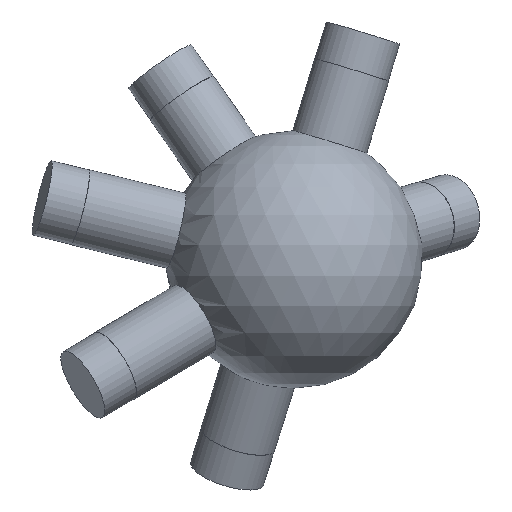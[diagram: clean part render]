
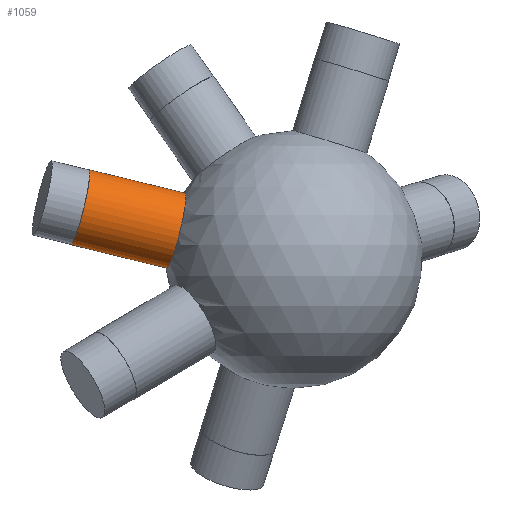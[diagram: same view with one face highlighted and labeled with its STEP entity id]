
A CAD part, left-side view. The second image highlights one B-rep face of the part: STEP entity #1059.
In plain terms, the highlighted cylindrical face has radius 6 mm (diameter 12 mm), a full revolution.
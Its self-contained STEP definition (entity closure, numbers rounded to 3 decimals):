
#33 = SPHERICAL_SURFACE('',#34,20.);
#34 = AXIS2_PLACEMENT_3D('',#35,#36,#37);
#35 = CARTESIAN_POINT('',(0.,0.,0.));
#36 = DIRECTION('',(0.,0.,1.));
#37 = DIRECTION('',(1.,0.,-0.));
#646 = EDGE_CURVE('',#647,#647,#649,.T.);
#647 = VERTEX_POINT('',#648);
#648 = CARTESIAN_POINT('',(-2.189,16.989,
    10.324));
#649 = SURFACE_CURVE('',#650,(#655,#717),.PCURVE_S1.);
#650 = CIRCLE('',#651,6.);
#651 = AXIS2_PLACEMENT_3D('',#652,#653,#654);
#652 = CARTESIAN_POINT('',(-2.189,18.412,4.495
    ));
#653 = DIRECTION('',(-0.115,0.965,0.236));
#654 = DIRECTION('',(0.,-0.237,0.971)
  );
#655 = PCURVE('',#33,#656);
#656 = DEFINITIONAL_REPRESENTATION('',(#657),#716);
#657 = B_SPLINE_CURVE_WITH_KNOTS('',8,(#658,#659,#660,#661,#662,#663,
    #664,#665,#666,#667,#668,#669,#670,#671,#672,#673,#674,#675,#676,
    #677,#678,#679,#680,#681,#682,#683,#684,#685,#686,#687,#688,#689,
    #690,#691,#692,#693,#694,#695,#696,#697,#698,#699,#700,#701,#702,
    #703,#704,#705,#706,#707,#708,#709,#710,#711,#712,#713,#714,#715),
  .UNSPECIFIED.,.F.,.F.,(9,7,7,7,7,7,7,7,9),(0.,0.785,
    1.473,2.675,3.577,4.254,
    5.268,5.776,6.283),.UNSPECIFIED.);
#658 = CARTESIAN_POINT('',(1.699,0.542));
#659 = CARTESIAN_POINT('',(1.665,0.543));
#660 = CARTESIAN_POINT('',(1.63,0.541));
#661 = CARTESIAN_POINT('',(1.596,0.534));
#662 = CARTESIAN_POINT('',(1.564,0.524));
#663 = CARTESIAN_POINT('',(1.533,0.51));
#664 = CARTESIAN_POINT('',(1.505,0.493));
#665 = CARTESIAN_POINT('',(1.48,0.474));
#666 = CARTESIAN_POINT('',(1.439,0.433));
#667 = CARTESIAN_POINT('',(1.422,0.412));
#668 = CARTESIAN_POINT('',(1.408,0.389));
#669 = CARTESIAN_POINT('',(1.396,0.366));
#670 = CARTESIAN_POINT('',(1.387,0.341));
#671 = CARTESIAN_POINT('',(1.381,0.316));
#672 = CARTESIAN_POINT('',(1.377,0.29));
#673 = CARTESIAN_POINT('',(1.373,0.219));
#674 = CARTESIAN_POINT('',(1.379,0.174));
#675 = CARTESIAN_POINT('',(1.392,0.13));
#676 = CARTESIAN_POINT('',(1.412,0.088));
#677 = CARTESIAN_POINT('',(1.438,0.05));
#678 = CARTESIAN_POINT('',(1.47,0.016));
#679 = CARTESIAN_POINT('',(1.506,-0.011));
#680 = CARTESIAN_POINT('',(1.576,-0.048));
#681 = CARTESIAN_POINT('',(1.608,-0.059));
#682 = CARTESIAN_POINT('',(1.642,-0.067));
#683 = CARTESIAN_POINT('',(1.676,-0.071));
#684 = CARTESIAN_POINT('',(1.71,-0.07));
#685 = CARTESIAN_POINT('',(1.744,-0.065));
#686 = CARTESIAN_POINT('',(1.777,-0.056));
#687 = CARTESIAN_POINT('',(1.832,-0.033));
#688 = CARTESIAN_POINT('',(1.854,-0.021));
#689 = CARTESIAN_POINT('',(1.876,-0.007));
#690 = CARTESIAN_POINT('',(1.896,0.009));
#691 = CARTESIAN_POINT('',(1.914,0.027));
#692 = CARTESIAN_POINT('',(1.931,0.046));
#693 = CARTESIAN_POINT('',(1.946,0.067));
#694 = CARTESIAN_POINT('',(1.978,0.121));
#695 = CARTESIAN_POINT('',(1.993,0.157));
#696 = CARTESIAN_POINT('',(2.003,0.194));
#697 = CARTESIAN_POINT('',(2.008,0.233));
#698 = CARTESIAN_POINT('',(2.007,0.271));
#699 = CARTESIAN_POINT('',(2.001,0.31));
#700 = CARTESIAN_POINT('',(1.99,0.346));
#701 = CARTESIAN_POINT('',(1.963,0.398));
#702 = CARTESIAN_POINT('',(1.953,0.415));
#703 = CARTESIAN_POINT('',(1.942,0.431));
#704 = CARTESIAN_POINT('',(1.929,0.446));
#705 = CARTESIAN_POINT('',(1.914,0.46));
#706 = CARTESIAN_POINT('',(1.899,0.473));
#707 = CARTESIAN_POINT('',(1.882,0.485));
#708 = CARTESIAN_POINT('',(1.846,0.506));
#709 = CARTESIAN_POINT('',(1.827,0.516));
#710 = CARTESIAN_POINT('',(1.807,0.524));
#711 = CARTESIAN_POINT('',(1.787,0.531));
#712 = CARTESIAN_POINT('',(1.765,0.536));
#713 = CARTESIAN_POINT('',(1.743,0.54));
#714 = CARTESIAN_POINT('',(1.721,0.542));
#715 = CARTESIAN_POINT('',(1.699,0.542));
#716 = ( GEOMETRIC_REPRESENTATION_CONTEXT(2) 
PARAMETRIC_REPRESENTATION_CONTEXT() REPRESENTATION_CONTEXT('2D SPACE',''
  ) );
#717 = PCURVE('',#718,#723);
#718 = CYLINDRICAL_SURFACE('',#719,6.);
#719 = AXIS2_PLACEMENT_3D('',#720,#721,#722);
#720 = CARTESIAN_POINT('',(0.,0.,0.));
#721 = DIRECTION('',(-0.115,0.965,0.236));
#722 = DIRECTION('',(0.,-0.237,0.971)
  );
#723 = DEFINITIONAL_REPRESENTATION('',(#724),#728);
#724 = LINE('',#725,#726);
#725 = CARTESIAN_POINT('',(0.,19.079));
#726 = VECTOR('',#727,1.);
#727 = DIRECTION('',(1.,0.));
#728 = ( GEOMETRIC_REPRESENTATION_CONTEXT(2) 
PARAMETRIC_REPRESENTATION_CONTEXT() REPRESENTATION_CONTEXT('2D SPACE',''
  ) );
#1059 = ADVANCED_FACE('',(#1060),#718,.T.);
#1060 = FACE_BOUND('',#1061,.T.);
#1061 = EDGE_LOOP('',(#1062,#1085,#1112,#1113));
#1062 = ORIENTED_EDGE('',*,*,#1063,.T.);
#1063 = EDGE_CURVE('',#647,#1064,#1066,.T.);
#1064 = VERTEX_POINT('',#1065);
#1065 = CARTESIAN_POINT('',(-3.966,31.935,
    13.973));
#1066 = SEAM_CURVE('',#1067,(#1071,#1078),.PCURVE_S1.);
#1067 = LINE('',#1068,#1069);
#1068 = CARTESIAN_POINT('',(0.,-1.423,
    5.829));
#1069 = VECTOR('',#1070,1.);
#1070 = DIRECTION('',(-0.115,0.965,0.236));
#1071 = PCURVE('',#718,#1072);
#1072 = DEFINITIONAL_REPRESENTATION('',(#1073),#1077);
#1073 = LINE('',#1074,#1075);
#1074 = CARTESIAN_POINT('',(6.283,-0.));
#1075 = VECTOR('',#1076,1.);
#1076 = DIRECTION('',(0.,1.));
#1077 = ( GEOMETRIC_REPRESENTATION_CONTEXT(2) 
PARAMETRIC_REPRESENTATION_CONTEXT() REPRESENTATION_CONTEXT('2D SPACE',''
  ) );
#1078 = PCURVE('',#718,#1079);
#1079 = DEFINITIONAL_REPRESENTATION('',(#1080),#1084);
#1080 = LINE('',#1081,#1082);
#1081 = CARTESIAN_POINT('',(0.,-0.));
#1082 = VECTOR('',#1083,1.);
#1083 = DIRECTION('',(0.,1.));
#1084 = ( GEOMETRIC_REPRESENTATION_CONTEXT(2) 
PARAMETRIC_REPRESENTATION_CONTEXT() REPRESENTATION_CONTEXT('2D SPACE',''
  ) );
#1085 = ORIENTED_EDGE('',*,*,#1086,.F.);
#1086 = EDGE_CURVE('',#1064,#1064,#1087,.T.);
#1087 = SURFACE_CURVE('',#1088,(#1093,#1100),.PCURVE_S1.);
#1088 = CIRCLE('',#1089,6.);
#1089 = AXIS2_PLACEMENT_3D('',#1090,#1091,#1092);
#1090 = CARTESIAN_POINT('',(-3.966,33.358,
    8.144));
#1091 = DIRECTION('',(-0.115,0.965,0.236));
#1092 = DIRECTION('',(0.,-0.237,0.971
    ));
#1093 = PCURVE('',#718,#1094);
#1094 = DEFINITIONAL_REPRESENTATION('',(#1095),#1099);
#1095 = LINE('',#1096,#1097);
#1096 = CARTESIAN_POINT('',(0.,34.566));
#1097 = VECTOR('',#1098,1.);
#1098 = DIRECTION('',(1.,0.));
#1099 = ( GEOMETRIC_REPRESENTATION_CONTEXT(2) 
PARAMETRIC_REPRESENTATION_CONTEXT() REPRESENTATION_CONTEXT('2D SPACE',''
  ) );
#1100 = PCURVE('',#1101,#1106);
#1101 = PLANE('',#1102);
#1102 = AXIS2_PLACEMENT_3D('',#1103,#1104,#1105);
#1103 = CARTESIAN_POINT('',(-3.966,33.358,
    8.144));
#1104 = DIRECTION('',(-0.115,0.965,0.236));
#1105 = DIRECTION('',(0.,-0.237,0.971
    ));
#1106 = DEFINITIONAL_REPRESENTATION('',(#1107),#1111);
#1107 = CIRCLE('',#1108,6.);
#1108 = AXIS2_PLACEMENT_2D('',#1109,#1110);
#1109 = CARTESIAN_POINT('',(0.,0.));
#1110 = DIRECTION('',(1.,0.));
#1111 = ( GEOMETRIC_REPRESENTATION_CONTEXT(2) 
PARAMETRIC_REPRESENTATION_CONTEXT() REPRESENTATION_CONTEXT('2D SPACE',''
  ) );
#1112 = ORIENTED_EDGE('',*,*,#1063,.F.);
#1113 = ORIENTED_EDGE('',*,*,#646,.T.);
